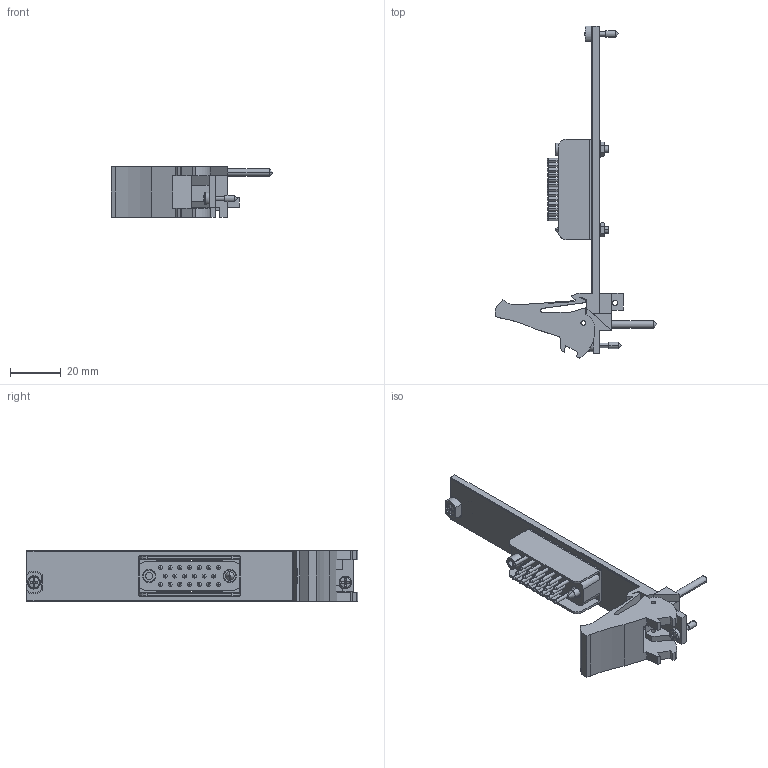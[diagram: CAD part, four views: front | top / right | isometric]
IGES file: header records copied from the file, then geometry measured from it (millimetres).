
Start section:  PTC IGES file: cu_pxi-2585.igs
Global section: file name: cu_pxi-2585.igs; native system: Pro/ENGINEER by Parametric Technology Corporation; preprocessor: 2006080; author: jjorden; organization: Unknown; date: 091109.092445; units: inch
Bounding box: 63.53 x 130.5 x 20.02 mm (x, y, z)
Surface area: 18694.1 mm2 (no closed solid volume)
Topology: 0 solids, 0 shells, 646 faces, 3282 edges, 3278 vertices
Faces by surface type: bspline 373, revolution 273
